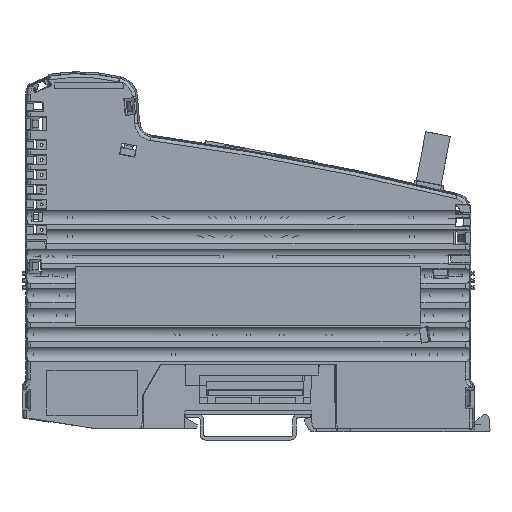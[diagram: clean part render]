
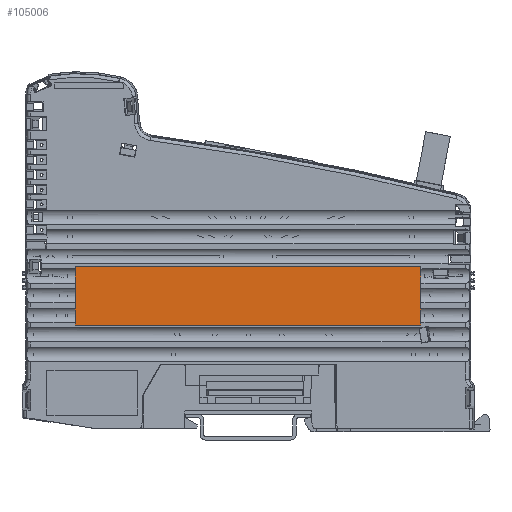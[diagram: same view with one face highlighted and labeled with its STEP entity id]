
A CAD part, left-side view. The second image highlights one B-rep face of the part: STEP entity #105006.
In plain terms, the highlighted planar face has unit normal (-1, 0, 0).
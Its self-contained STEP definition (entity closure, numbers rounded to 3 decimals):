
#9342=ORIENTED_EDGE('',*,*,#38337,.T.);
#9343=ORIENTED_EDGE('',*,*,#38336,.T.);
#9344=ORIENTED_EDGE('',*,*,#38339,.T.);
#9345=ORIENTED_EDGE('',*,*,#38331,.T.);
#9346=ORIENTED_EDGE('',*,*,#38333,.T.);
#9347=ORIENTED_EDGE('',*,*,#38334,.T.);
#9348=ORIENTED_EDGE('',*,*,#38340,.T.);
#9349=ORIENTED_EDGE('',*,*,#38341,.T.);
#9350=ORIENTED_EDGE('',*,*,#38342,.T.);
#9351=ORIENTED_EDGE('',*,*,#38338,.T.);
#38331=EDGE_CURVE('',#53106,#52244,#63776,.T.);
#38333=EDGE_CURVE('',#52244,#52251,#63778,.T.);
#38334=EDGE_CURVE('',#52251,#52254,#63779,.T.);
#38336=EDGE_CURVE('',#53103,#53107,#63781,.T.);
#38337=EDGE_CURVE('',#53104,#53103,#63782,.T.);
#38338=EDGE_CURVE('',#53105,#53104,#63783,.T.);
#38339=EDGE_CURVE('',#53107,#53106,#63784,.T.);
#38340=EDGE_CURVE('',#52254,#53108,#63785,.T.);
#38341=EDGE_CURVE('',#53108,#53109,#63786,.T.);
#38342=EDGE_CURVE('',#53109,#53105,#63787,.T.);
#52244=VERTEX_POINT('',#158764);
#52251=VERTEX_POINT('',#158869);
#52254=VERTEX_POINT('',#158976);
#53103=VERTEX_POINT('',#163813);
#53104=VERTEX_POINT('',#163817);
#53105=VERTEX_POINT('',#163821);
#53106=VERTEX_POINT('',#163826);
#53107=VERTEX_POINT('',#163834);
#53108=VERTEX_POINT('',#163843);
#53109=VERTEX_POINT('',#163845);
#63776=LINE('',#163825,#75552);
#63778=LINE('',#163829,#75554);
#63779=LINE('',#163831,#75555);
#63781=LINE('',#163835,#75557);
#63782=LINE('',#163837,#75558);
#63783=LINE('',#163839,#75559);
#63784=LINE('',#163841,#75560);
#63785=LINE('',#163842,#75561);
#63786=LINE('',#163844,#75562);
#63787=LINE('',#163846,#75563);
#75552=VECTOR('',#132317,1000.);
#75554=VECTOR('',#132321,1000.);
#75555=VECTOR('',#132324,1000.);
#75557=VECTOR('',#132328,1000.);
#75558=VECTOR('',#132331,1000.);
#75559=VECTOR('',#132334,1000.);
#75560=VECTOR('',#132337,1000.);
#75561=VECTOR('',#132338,1000.);
#75562=VECTOR('',#132339,1000.);
#75563=VECTOR('',#132340,1000.);
#86397=EDGE_LOOP('',(#9342,#9343,#9344,#9345,#9346,#9347,#9348,#9349,#9350,
#9351));
#93623=FACE_BOUND('',#86397,.T.);
#100658=PLANE('',#121403);
#105006=ADVANCED_FACE('',(#93623),#100658,.T.);
#121403=AXIS2_PLACEMENT_3D('',#163840,#132335,#132336);
#132317=DIRECTION('',(0.,0.,-1.));
#132321=DIRECTION('',(0.,0.,-1.));
#132324=DIRECTION('',(0.,0.,-1.));
#132328=DIRECTION('',(0.,0.,1.));
#132331=DIRECTION('',(0.,0.,1.));
#132334=DIRECTION('',(0.,0.,1.));
#132335=DIRECTION('',(-1.,0.,0.));
#132336=DIRECTION('',(0.,-1.,0.));
#132337=DIRECTION('',(0.,1.,0.));
#132338=DIRECTION('',(0.,0.,-1.));
#132339=DIRECTION('',(0.,-1.,0.));
#132340=DIRECTION('',(0.,0.,1.));
#158764=CARTESIAN_POINT('',(-11.5,48.483,42.8));
#158869=CARTESIAN_POINT('',(-11.5,48.483,37.3));
#158976=CARTESIAN_POINT('',(-11.5,48.483,31.8));
#163813=CARTESIAN_POINT('',(-11.5,-48.483,42.8));
#163817=CARTESIAN_POINT('',(-11.5,-48.483,37.3));
#163821=CARTESIAN_POINT('',(-11.5,-48.483,31.8));
#163825=CARTESIAN_POINT('',(-11.5,48.483,29.));
#163826=CARTESIAN_POINT('',(-11.5,48.483,45.483));
#163829=CARTESIAN_POINT('',(-11.5,48.483,29.));
#163831=CARTESIAN_POINT('',(-11.5,48.483,29.));
#163834=CARTESIAN_POINT('',(-11.5,-48.483,45.483));
#163835=CARTESIAN_POINT('',(-11.5,-48.483,29.));
#163837=CARTESIAN_POINT('',(-11.5,-48.483,29.));
#163839=CARTESIAN_POINT('',(-11.5,-48.483,29.));
#163840=CARTESIAN_POINT('',(-11.5,48.5,29.));
#163841=CARTESIAN_POINT('',(-11.5,48.5,45.483));
#163842=CARTESIAN_POINT('',(-11.5,48.483,29.));
#163843=CARTESIAN_POINT('',(-11.5,48.483,29.017));
#163844=CARTESIAN_POINT('',(-11.5,48.5,29.017));
#163845=CARTESIAN_POINT('',(-11.5,-48.483,29.017));
#163846=CARTESIAN_POINT('',(-11.5,-48.483,29.));
